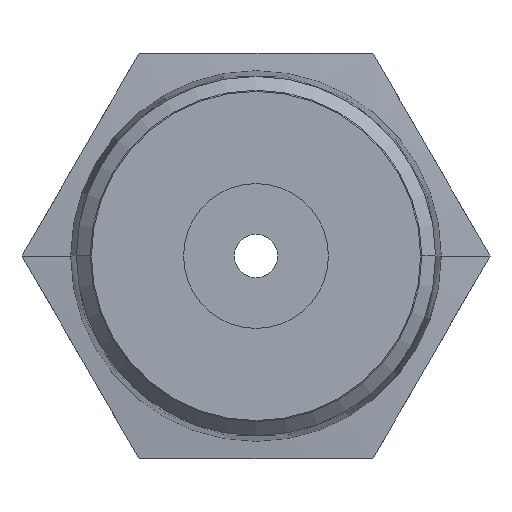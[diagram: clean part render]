
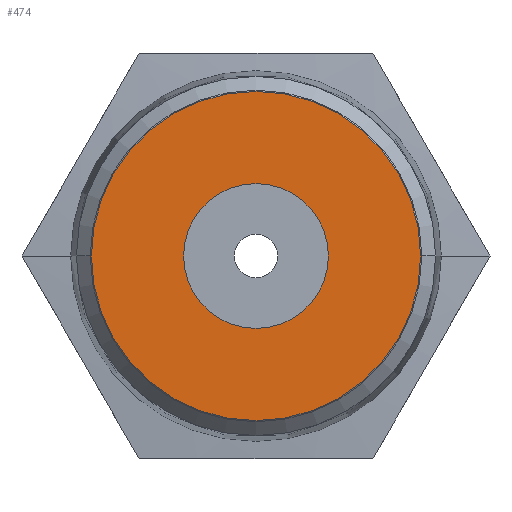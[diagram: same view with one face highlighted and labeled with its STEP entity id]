
A CAD part, front view. The second image highlights one B-rep face of the part: STEP entity #474.
In plain terms, the highlighted planar face has unit normal (0, -1, 0).
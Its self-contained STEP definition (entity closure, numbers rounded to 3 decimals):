
#1=CARTESIAN_POINT('',(0.,0.,0.));
#2=DIRECTION('',(0.,-1.,0.));
#3=DIRECTION('',(-1.,0.,0.));
#4=AXIS2_PLACEMENT_3D('',#1,#2,#3);
#6=CARTESIAN_POINT('',(0.,0.,0.));
#7=DIRECTION('',(0.,-1.,0.));
#8=DIRECTION('',(1.,0.,0.));
#9=AXIS2_PLACEMENT_3D('',#6,#7,#8);
#11=CARTESIAN_POINT('',(0.,0.,0.));
#12=DIRECTION('',(0.,-1.,0.));
#13=DIRECTION('',(-1.,0.,0.));
#14=AXIS2_PLACEMENT_3D('',#11,#12,#13);
#21=CARTESIAN_POINT('',(0.,0.,0.));
#22=DIRECTION('',(0.,-1.,0.));
#23=DIRECTION('',(1.,0.,0.));
#24=AXIS2_PLACEMENT_3D('',#21,#22,#23);
#425=CARTESIAN_POINT('',(-5.686,0.,0.));
#426=CARTESIAN_POINT('',(5.686,0.,0.));
#427=VERTEX_POINT('',#425);
#428=VERTEX_POINT('',#426);
#449=CARTESIAN_POINT('',(-2.5,0.,0.));
#450=CARTESIAN_POINT('',(2.5,0.,0.));
#451=VERTEX_POINT('',#449);
#452=VERTEX_POINT('',#450);
#457=CARTESIAN_POINT('',(0.,0.,0.));
#458=DIRECTION('',(0.,1.,0.));
#459=DIRECTION('',(1.,0.,0.));
#460=AXIS2_PLACEMENT_3D('',#457,#458,#459);
#461=PLANE('',#460);
#463=ORIENTED_EDGE('',*,*,#462,.F.);
#465=ORIENTED_EDGE('',*,*,#464,.F.);
#466=EDGE_LOOP('',(#463,#465));
#467=FACE_OUTER_BOUND('',#466,.F.);
#469=ORIENTED_EDGE('',*,*,#468,.T.);
#471=ORIENTED_EDGE('',*,*,#470,.T.);
#472=EDGE_LOOP('',(#469,#471));
#473=FACE_BOUND('',#472,.F.);
#474=ADVANCED_FACE('',(#467,#473),#461,.F.);
#5=CIRCLE('',#4,2.5);
#10=CIRCLE('',#9,2.5);
#15=CIRCLE('',#14,5.686);
#25=CIRCLE('',#24,5.686);
#462=EDGE_CURVE('',#427,#428,#15,.T.);
#464=EDGE_CURVE('',#428,#427,#25,.T.);
#468=EDGE_CURVE('',#451,#452,#5,.T.);
#470=EDGE_CURVE('',#452,#451,#10,.T.);
